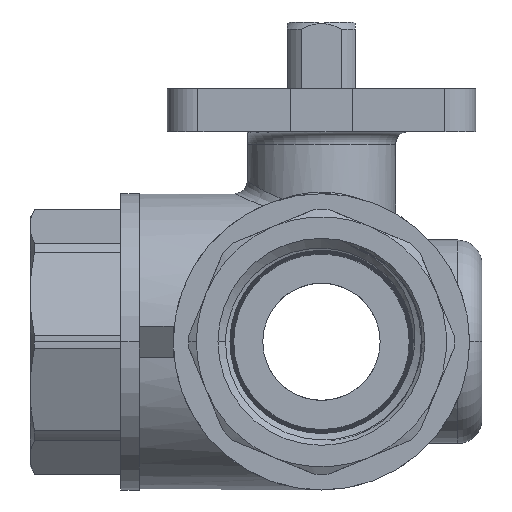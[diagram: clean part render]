
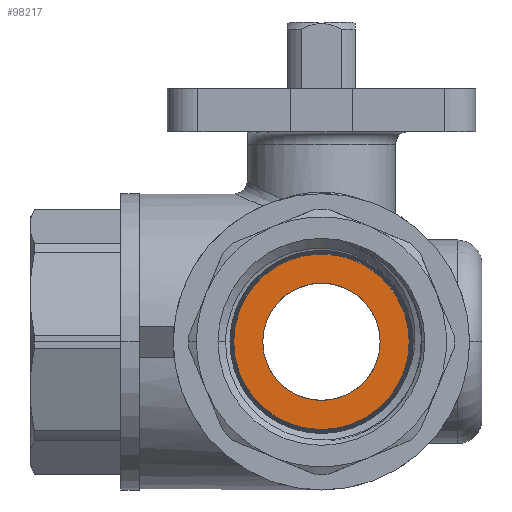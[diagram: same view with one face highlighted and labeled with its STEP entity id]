
A CAD part, left-side view. The second image highlights one B-rep face of the part: STEP entity #98217.
In plain terms, the highlighted planar face has unit normal (-1, 0, 0).
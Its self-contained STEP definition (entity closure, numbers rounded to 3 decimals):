
#83708 = VERTEX_POINT('',#83709);
#83709 = CARTESIAN_POINT('',(-8.677,-2.367,
    19.745));
#83718 = CONICAL_SURFACE('',#83719,0.584,0.031);
#83719 = AXIS2_PLACEMENT_3D('',#83720,#83721,#83722);
#83720 = CARTESIAN_POINT('',(-9.472,-1.807,
    19.745));
#83721 = DIRECTION('',(-1.,0.,0.));
#83722 = DIRECTION('',(0.,-1.,0.));
#83730 = CONICAL_SURFACE('',#83731,0.584,0.031);
#83731 = AXIS2_PLACEMENT_3D('',#83732,#83733,#83734);
#83732 = CARTESIAN_POINT('',(-9.472,-1.807,
    19.745));
#83733 = DIRECTION('',(-1.,0.,0.));
#83734 = DIRECTION('',(0.,-1.,0.));
#84033 = VERTEX_POINT('',#84034);
#84034 = CARTESIAN_POINT('',(-8.677,-1.248,
    19.745));
#84055 = EDGE_CURVE('',#84033,#83708,#84056,.T.);
#84056 = SURFACE_CURVE('',#84057,(#84062,#84069),.PCURVE_S1.);
#84057 = CIRCLE('',#84058,0.56);
#84058 = AXIS2_PLACEMENT_3D('',#84059,#84060,#84061);
#84059 = CARTESIAN_POINT('',(-8.677,-1.807,
    19.745));
#84060 = DIRECTION('',(-1.,0.,0.));
#84061 = DIRECTION('',(0.,-1.,0.));
#84062 = PCURVE('',#83718,#84063);
#84063 = DEFINITIONAL_REPRESENTATION('',(#84064),#84068);
#84064 = LINE('',#84065,#84066);
#84065 = CARTESIAN_POINT('',(0.,-0.795));
#84066 = VECTOR('',#84067,1.);
#84067 = DIRECTION('',(1.,0.));
#84068 = ( GEOMETRIC_REPRESENTATION_CONTEXT(2) 
PARAMETRIC_REPRESENTATION_CONTEXT() REPRESENTATION_CONTEXT('2D SPACE',''
  ) );
#84069 = PCURVE('',#84070,#84075);
#84070 = PLANE('',#84071);
#84071 = AXIS2_PLACEMENT_3D('',#84072,#84073,#84074);
#84072 = CARTESIAN_POINT('',(-8.677,-1.807,
    19.745));
#84073 = DIRECTION('',(-1.,0.,0.));
#84074 = DIRECTION('',(0.,-1.,0.));
#84075 = DEFINITIONAL_REPRESENTATION('',(#84076),#84080);
#84076 = CIRCLE('',#84077,0.56);
#84077 = AXIS2_PLACEMENT_2D('',#84078,#84079);
#84078 = CARTESIAN_POINT('',(0.,0.));
#84079 = DIRECTION('',(1.,0.));
#84080 = ( GEOMETRIC_REPRESENTATION_CONTEXT(2) 
PARAMETRIC_REPRESENTATION_CONTEXT() REPRESENTATION_CONTEXT('2D SPACE',''
  ) );
#93346 = VERTEX_POINT('',#93347);
#93347 = CARTESIAN_POINT('',(-8.677,-2.181,
    19.745));
#93354 = CYLINDRICAL_SURFACE('',#93355,0.374);
#93355 = AXIS2_PLACEMENT_3D('',#93356,#93357,#93358);
#93356 = CARTESIAN_POINT('',(-9.543,-1.807,
    19.745));
#93357 = DIRECTION('',(-1.,0.,0.));
#93358 = DIRECTION('',(0.,-1.,0.));
#93366 = CYLINDRICAL_SURFACE('',#93367,0.374);
#93367 = AXIS2_PLACEMENT_3D('',#93368,#93369,#93370);
#93368 = CARTESIAN_POINT('',(-9.543,-1.807,
    19.745));
#93369 = DIRECTION('',(-1.,0.,0.));
#93370 = DIRECTION('',(0.,-1.,0.));
#93378 = EDGE_CURVE('',#93379,#93346,#93381,.T.);
#93379 = VERTEX_POINT('',#93380);
#93380 = CARTESIAN_POINT('',(-8.677,-1.433,
    19.745));
#93381 = SURFACE_CURVE('',#93382,(#93387,#93394),.PCURVE_S1.);
#93382 = CIRCLE('',#93383,0.374);
#93383 = AXIS2_PLACEMENT_3D('',#93384,#93385,#93386);
#93384 = CARTESIAN_POINT('',(-8.677,-1.807,
    19.745));
#93385 = DIRECTION('',(-1.,0.,0.));
#93386 = DIRECTION('',(0.,-1.,0.));
#93387 = PCURVE('',#93354,#93388);
#93388 = DEFINITIONAL_REPRESENTATION('',(#93389),#93393);
#93389 = LINE('',#93390,#93391);
#93390 = CARTESIAN_POINT('',(0.,-0.866));
#93391 = VECTOR('',#93392,1.);
#93392 = DIRECTION('',(1.,0.));
#93393 = ( GEOMETRIC_REPRESENTATION_CONTEXT(2) 
PARAMETRIC_REPRESENTATION_CONTEXT() REPRESENTATION_CONTEXT('2D SPACE',''
  ) );
#93394 = PCURVE('',#84070,#93395);
#93395 = DEFINITIONAL_REPRESENTATION('',(#93396),#93400);
#93396 = CIRCLE('',#93397,0.374);
#93397 = AXIS2_PLACEMENT_2D('',#93398,#93399);
#93398 = CARTESIAN_POINT('',(0.,0.));
#93399 = DIRECTION('',(1.,0.));
#93400 = ( GEOMETRIC_REPRESENTATION_CONTEXT(2) 
PARAMETRIC_REPRESENTATION_CONTEXT() REPRESENTATION_CONTEXT('2D SPACE',''
  ) );
#98196 = EDGE_CURVE('',#93346,#93379,#98197,.T.);
#98197 = SURFACE_CURVE('',#98198,(#98203,#98210),.PCURVE_S1.);
#98198 = CIRCLE('',#98199,0.374);
#98199 = AXIS2_PLACEMENT_3D('',#98200,#98201,#98202);
#98200 = CARTESIAN_POINT('',(-8.677,-1.807,
    19.745));
#98201 = DIRECTION('',(-1.,0.,0.));
#98202 = DIRECTION('',(0.,-1.,0.));
#98203 = PCURVE('',#93366,#98204);
#98204 = DEFINITIONAL_REPRESENTATION('',(#98205),#98209);
#98205 = LINE('',#98206,#98207);
#98206 = CARTESIAN_POINT('',(0.,-0.866));
#98207 = VECTOR('',#98208,1.);
#98208 = DIRECTION('',(1.,0.));
#98209 = ( GEOMETRIC_REPRESENTATION_CONTEXT(2) 
PARAMETRIC_REPRESENTATION_CONTEXT() REPRESENTATION_CONTEXT('2D SPACE',''
  ) );
#98210 = PCURVE('',#84070,#98211);
#98211 = DEFINITIONAL_REPRESENTATION('',(#98212),#98216);
#98212 = CIRCLE('',#98213,0.374);
#98213 = AXIS2_PLACEMENT_2D('',#98214,#98215);
#98214 = CARTESIAN_POINT('',(0.,0.));
#98215 = DIRECTION('',(1.,0.));
#98216 = ( GEOMETRIC_REPRESENTATION_CONTEXT(2) 
PARAMETRIC_REPRESENTATION_CONTEXT() REPRESENTATION_CONTEXT('2D SPACE',''
  ) );
#98217 = ADVANCED_FACE('',(#98218,#98243),#84070,.T.);
#98218 = FACE_BOUND('',#98219,.T.);
#98219 = EDGE_LOOP('',(#98220,#98242));
#98220 = ORIENTED_EDGE('',*,*,#98221,.T.);
#98221 = EDGE_CURVE('',#83708,#84033,#98222,.T.);
#98222 = SURFACE_CURVE('',#98223,(#98228,#98235),.PCURVE_S1.);
#98223 = CIRCLE('',#98224,0.56);
#98224 = AXIS2_PLACEMENT_3D('',#98225,#98226,#98227);
#98225 = CARTESIAN_POINT('',(-8.677,-1.807,
    19.745));
#98226 = DIRECTION('',(-1.,0.,0.));
#98227 = DIRECTION('',(0.,-1.,0.));
#98228 = PCURVE('',#84070,#98229);
#98229 = DEFINITIONAL_REPRESENTATION('',(#98230),#98234);
#98230 = CIRCLE('',#98231,0.56);
#98231 = AXIS2_PLACEMENT_2D('',#98232,#98233);
#98232 = CARTESIAN_POINT('',(0.,0.));
#98233 = DIRECTION('',(1.,0.));
#98234 = ( GEOMETRIC_REPRESENTATION_CONTEXT(2) 
PARAMETRIC_REPRESENTATION_CONTEXT() REPRESENTATION_CONTEXT('2D SPACE',''
  ) );
#98235 = PCURVE('',#83730,#98236);
#98236 = DEFINITIONAL_REPRESENTATION('',(#98237),#98241);
#98237 = LINE('',#98238,#98239);
#98238 = CARTESIAN_POINT('',(0.,-0.795));
#98239 = VECTOR('',#98240,1.);
#98240 = DIRECTION('',(1.,0.));
#98241 = ( GEOMETRIC_REPRESENTATION_CONTEXT(2) 
PARAMETRIC_REPRESENTATION_CONTEXT() REPRESENTATION_CONTEXT('2D SPACE',''
  ) );
#98242 = ORIENTED_EDGE('',*,*,#84055,.T.);
#98243 = FACE_BOUND('',#98244,.T.);
#98244 = EDGE_LOOP('',(#98245,#98246));
#98245 = ORIENTED_EDGE('',*,*,#98196,.F.);
#98246 = ORIENTED_EDGE('',*,*,#93378,.F.);
